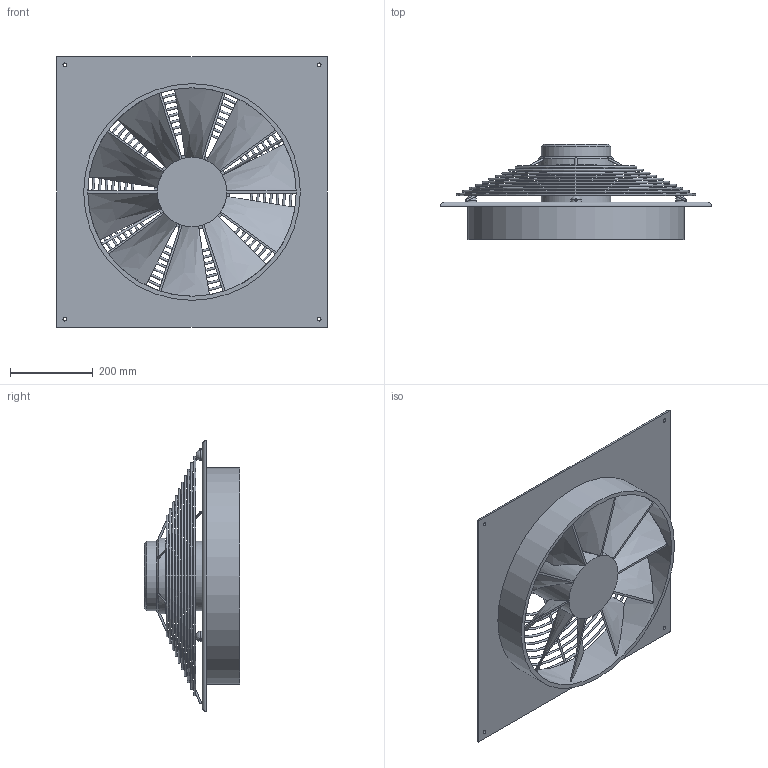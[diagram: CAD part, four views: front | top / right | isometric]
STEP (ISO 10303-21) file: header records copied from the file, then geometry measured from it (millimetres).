
FILE_DESCRIPTION(/* description */ (''),/* implementation_level */ '2;1');
FILE_NAME(/* name */ 'Z:\Output\HQW EC 500 A-04934-001.stp',/* time_stamp */ '2017-05-04T17:02:32+02:00',/* author */ ('pareshmistry'),/* organization */ (''),/* preprocessor_version */ 'ST-DEVELOPER v16.5',/* originating_system */ 'Autodesk Inventor 2017',/* authorisation */ '');
FILE_SCHEMA (('AUTOMOTIVE_DESIGN { 1 0 10303 214 3 1 1 }'));
Length unit declared in the file: millimetre
Products named in the file (1): HQW EC 450
Bounding box: 655 x 230 x 655 mm (x, y, z)
Volume: 9302774.8 mm3; surface area: 1536454.7 mm2
Topology: 11 solids, 11 shells, 119 faces, 330 edges, 211 vertices
Faces by surface type: bspline 43, cylinder 32, plane 32, torus 10, cone 2
Full cylindrical faces by diameter (mm): 5 x9, 9 x4, 25 x3, 168 x2, 182.55 x1, 504 x1, 524 x1
Entity records: 4718 total; most frequent: CARTESIAN_POINT 2210, ORIENTED_EDGE 548, DIRECTION 426, EDGE_CURVE 264, VERTEX_POINT 179, AXIS2_PLACEMENT_3D 166, EDGE_LOOP 153, ADVANCED_FACE 118
